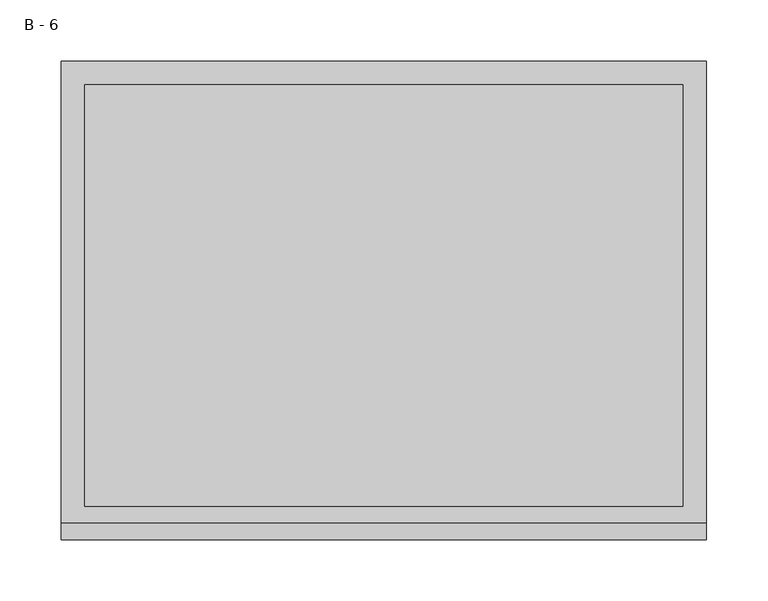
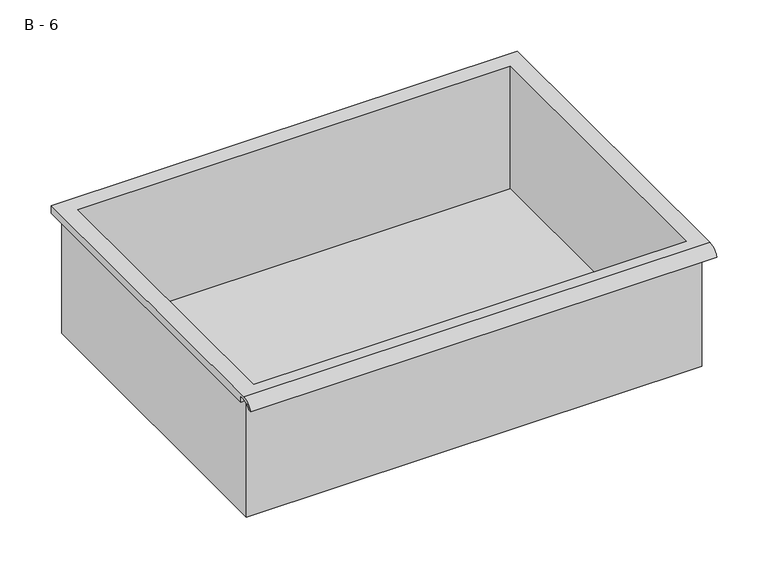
"""IFC4 building model written with IfcOpenShell, lengths in millimetres: furniture geometry, HermanMiller_CoStruc_CO207_Drawer : B - 6."""

from ifc_helpers import new_model, si_unit, frame, origin, place, context, project, spatial, polyline, circle_curve, source, transform, mapped, element, save
from ifc_brep_helpers import plane_surface, cylinder_surface, revolved_surface, advanced_brep


def b_6_4c31ebbb(model_context):
    return source(origin(), model_context, "Body", "AdvancedBrep", [
        advanced_brep(
        [(-257.1076517, -176.2125, 266.7), (257.2423483, -176.2125, 266.7), (257.2423483, -176.2125, 406.4), (263.5923483, -176.2125, 406.4), (263.5923483, -176.2125, 412.7071341), (-263.4576517, -176.2125, 412.7071341), (-263.4576517, -176.2125, 406.4), (-257.1076517, -176.2125, 406.4), (257.2423483, 185.7375, 266.7), (-257.1076517, 185.7375, 266.7), (-257.1076517, 185.7375, 406.4), (257.2423483, 185.7375, 406.4), (263.5923483, -181.6070544, 415.925), (263.5923483, 195.2625, 415.925), (-263.4576517, 195.2625, 415.925), (-263.4576517, -181.6070544, 415.925), (244.5423483, -168.275, 415.925), (-244.4076517, -168.275, 415.925), (-244.4076517, 176.2125, 415.925), (244.5423483, 176.2125, 415.925), (263.5923483, -195.2625, 406.4), (263.5923483, -191.8280601, 406.4), (263.5923483, -180.4714815, 412.7071341), (263.5923483, 195.2625, 406.4), (-263.4576517, 195.2625, 406.4), (-263.4576517, -180.4714815, 412.7071341), (-263.4576517, -191.8280601, 406.4), (-263.4576517, -195.2625, 406.4), (-244.4076517, -168.275, 269.7261719), (244.5423483, -168.275, 269.7261719), (244.5423483, 176.2125, 269.7261719), (-244.4076517, 176.2125, 269.7261719)],
        [
            (0, 1),
            (1, 2),
            (2, 3),
            (3, 4),
            (4, 5),
            (5, 6),
            (6, 7),
            (7, 0),
            (8, 9),
            (9, 10),
            (10, 11),
            (11, 8),
            (0, 9),
            (8, 1),
            (11, 2),
            (12, 13),
            (13, 14),
            (14, 15),
            (15, 12),
            (16, 17),
            (17, 18),
            (18, 19),
            (19, 16),
            (7, 10),
            (12, 20, circle_curve(frame((263.5923483, -181.6070544, 401.3739859), z_axis=(1.0, 0.0, 0.0), x_axis=(0.0, 1.0, 0.0)), 14.5510141)),
            (20, 21),
            (21, 22, circle_curve(frame((263.5923483, -181.6070544, 401.3739859), z_axis=(-1.0, 0.0, 0.0), x_axis=(0.0, 1.0, 0.0)), 11.3898979)),
            (22, 4),
            (3, 23),
            (23, 13),
            (14, 24),
            (24, 6),
            (5, 25),
            (25, 26, circle_curve(frame((-263.4576517, -181.6070544, 401.3739859), z_axis=(1.0, 0.0, 0.0), x_axis=(0.0, 1.0, 0.0)), 11.3898979)),
            (26, 27),
            (27, 15, circle_curve(frame((-263.4576517, -181.6070544, 401.3739859), z_axis=(-1.0, 0.0, 0.0), x_axis=(0.0, 1.0, 0.0)), 14.5510141)),
            (27, 20),
            (26, 21),
            (25, 22),
            (24, 23),
            (28, 29),
            (29, 30),
            (30, 31),
            (31, 28),
            (28, 17),
            (16, 29),
            (19, 30),
            (18, 31),
        ],
        [
            plane_surface(frame((257.2423483, -176.2125, 266.7), z_axis=(0.0, -1.0, 0.0), x_axis=(1.0, 0.0, 0.0))),
            plane_surface(frame((257.2423483, 185.7375, 266.7), z_axis=(0.0, 1.0, 0.0), x_axis=(-1.0, 0.0, 0.0))),
            plane_surface(frame((-257.1076517, -176.2125, 266.7), z_axis=(0.0, 0.0, -1.0), x_axis=(0.0, 1.0, 0.0))),
            plane_surface(frame((257.2423483, -176.2125, 266.7), z_axis=(1.0, 0.0, 0.0), x_axis=(0.0, 1.0, 0.0))),
            plane_surface(frame((257.2423483, -176.2125, 415.925), z_axis=(0.0, 0.0, 1.0), x_axis=(0.0, 1.0, 0.0))),
            plane_surface(frame((-257.1076517, -176.2125, 415.925), z_axis=(-1.0, 0.0, 0.0), x_axis=(0.0, 1.0, 0.0))),
            plane_surface(frame((263.5923483, 195.2625, 415.925), z_axis=(1.0, 0.0, 0.0), x_axis=(0.0, -1.0, 0.0))),
            plane_surface(frame((-263.4576517, 195.2625, 415.925), z_axis=(-1.0, 0.0, 0.0), x_axis=(0.0, 1.0, 0.0))),
            cylinder_surface(frame((-263.4576517, -181.6070544, 401.3739859), z_axis=(1.0, 0.0, 0.0), x_axis=(0.0, 1.0, 0.0)), 14.5510141),
            plane_surface(frame((263.5923483, -195.2625, 406.4), z_axis=(0.0, -7.310939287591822e-12, -1.0), x_axis=(-1.0, 0.0, 0.0))),
            revolved_surface(polyline([(-263.4576517, -170.21715650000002, 401.3739859), (263.59234829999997, -170.21715650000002, 401.3739859)]), (-263.4576517, -181.6070544, 401.3739859), (-1.0, 0.0, 0.0)),
            plane_surface(frame((263.5923483, -180.4714815, 412.7071341), z_axis=(0.0, -1.8083883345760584e-11, -1.0), x_axis=(-1.0, 0.0, 0.0))),
            plane_surface(frame((263.5923483, -176.2125, 406.4), z_axis=(0.0, 0.0, -1.0), x_axis=(-1.0, 0.0, 0.0))),
            plane_surface(frame((263.5923483, 195.2625, 406.4), z_axis=(0.0, 1.0, 0.0), x_axis=(-1.0, 0.0, 0.0))),
            plane_surface(frame((244.5423483, -168.275, 269.7261719), z_axis=(0.0, 0.0, 1.0), x_axis=(-1.0, 0.0, 0.0))),
            plane_surface(frame((-244.4076517, -168.275, 415.925), z_axis=(0.0, 1.0, 0.0), x_axis=(0.0, 0.0, -1.0))),
            plane_surface(frame((244.5423483, -168.275, 415.925), z_axis=(-1.0, 0.0, 0.0), x_axis=(0.0, 0.0, -1.0))),
            plane_surface(frame((244.5423483, 176.2125, 415.925), z_axis=(0.0, -1.0, 0.0), x_axis=(0.0, 0.0, -1.0))),
            plane_surface(frame((-244.4076517, 176.2125, 415.925), z_axis=(1.0, 0.0, 0.0), x_axis=(0.0, 0.0, -1.0))),
        ],
        [
            (0, [[1, 2, 3, 4, 5, 6, 7, 8]]),
            (1, [[9, 10, 11, 12]]),
            (2, [[-1, 13, -9, 14]]),
            (3, [[-14, -12, 15, -2]]),
            (4, [[16, 17, 18, 19], [20, 21, 22, 23]]),
            (5, [[-13, -8, 24, -10]]),
            (6, [[-16, 25, 26, 27, 28, -4, 29, 30]]),
            (7, [[31, 32, -6, 33, 34, 35, 36, -18]]),
            (8, [[-25, -19, -36, 37]]),
            (9, [[-26, -37, -35, 38]]),
            (10, [[-27, -38, -34, 39]]),
            (11, [[-28, -39, -33, -5]]),
            (12, [[-29, -3, -15, -11, -24, -7, -32, 40]]),
            (13, [[-30, -40, -31, -17]]),
            (14, [[41, 42, 43, 44]]),
            (15, [[-41, 45, -20, 46]]),
            (16, [[-42, -46, -23, 47]]),
            (17, [[-43, -47, -22, 48]]),
            (18, [[-44, -48, -21, -45]]),
        ],
    ),
    ])


if __name__ == "__main__":
    model = new_model("IFC4")
    model_context = context("Model", 3, world=origin())
    ifc_project = project(units=[si_unit("LENGTHUNIT", "METRE", prefix="MILLI")], contexts=[model_context])
    site = spatial("IfcSite", under=ifc_project)
    building = spatial("IfcBuilding", under=site)
    placement = place(None, origin())
    b_6_shape = b_6_4c31ebbb(model_context)
    element("IfcFurniture", 1, ObjectType="HermanMiller_CoStruc_CO207_Drawer : B - 6", at=placement, inside=building, context=model_context, shape_type="MappedRepresentation", body=[
        mapped(b_6_shape, transform((0.0, 0.0, 0.0), x_axis=(1.0, 0.0, 0.0), y_axis=(0.0, 1.0, 0.0), z_axis=(0.0, 0.0, 1.0))),
    ])
    save(model, "model.ifc")
